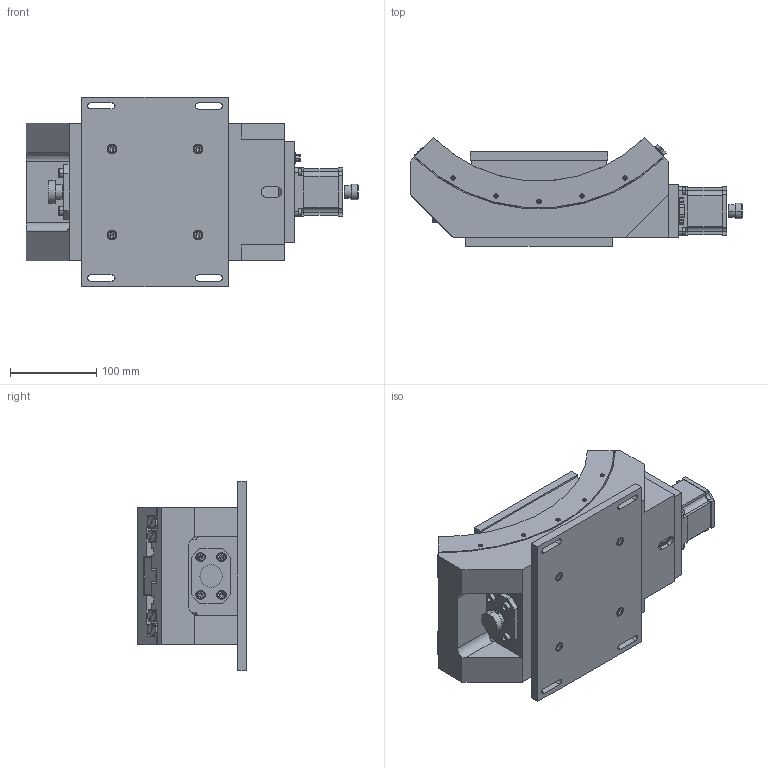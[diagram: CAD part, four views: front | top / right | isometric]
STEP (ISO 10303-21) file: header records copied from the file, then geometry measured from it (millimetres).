
FILE_DESCRIPTION (( 'STEP AP203' ), '1' );
FILE_NAME ('MOG-160-30.STEP', '2014-01-07T07:08:40', ( '' ), ( '' ), 'SwSTEP 2.0', 'SolidWorks 2010', '' );
FILE_SCHEMA (( 'CONFIG_CONTROL_DESIGN' ));
Length unit declared in the file: millimetre
Products named in the file (1): MOG-160-30
Bounding box: 386 x 126.32 x 220 mm (x, y, z)
Surface area: 518433.6 mm2 (no closed solid volume)
Topology: 0 solids, 95 shells, 921 faces, 3036 edges, 2152 vertices
Faces by surface type: plane 482, cylinder 285, cone 101, bspline 53
Entity records: 52335 total; most frequent: CARTESIAN_POINT 26694, DIRECTION 4930, ORIENTED_EDGE 4922, EDGE_CURVE 2985, VERTEX_POINT 2152, AXIS2_PLACEMENT_3D 1669, VECTOR 1592, LINE 1592
